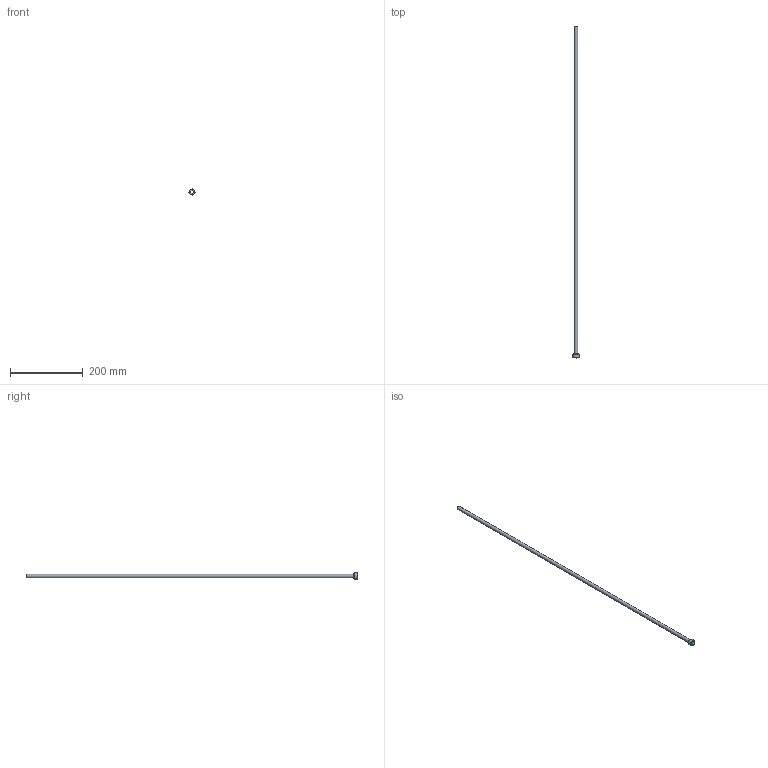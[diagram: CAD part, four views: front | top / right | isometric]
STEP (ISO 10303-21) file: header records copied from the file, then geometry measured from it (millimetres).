
FILE_DESCRIPTION(/* description */ (''),/* implementation_level */ '2;1');
FILE_NAME(/* name */ 'C:/Users/drich/Desktop/PT38-375-36 v1.step',/* time_stamp */ '2019-12-27T15:56:06-06:00',/* author */ (''),/* organization */ (''),/* preprocessor_version */ 'ST-DEVELOPER v18',/* originating_system */ 'Autodesk Translation Framework v8.12.0.6',/* authorisation */ '');
FILE_SCHEMA (('AUTOMOTIVE_DESIGN { 1 0 10303 214 3 1 1 }'));
Length unit declared in the file: inch
Products named in the file (1): PT38-375-36
Bounding box: 16.54 x 914.4 x 16.54 mm (x, y, z)
Volume: 12832.8 mm3; surface area: 52612.5 mm2
Topology: 1 solids, 1 shells, 30 faces, 71 edges, 45 vertices
Faces by surface type: plane 22, cylinder 4, torus 2, cone 2
Full cylindrical faces by diameter (mm): 8.636 x1, 9.5 x1, 11.938 x1, 16.537 x1
Entity records: 913 total; most frequent: DIRECTION 168, CARTESIAN_POINT 147, ORIENTED_EDGE 142, EDGE_CURVE 71, AXIS2_PLACEMENT_3D 66, VERTEX_POINT 45, LINE 36, VECTOR 36
